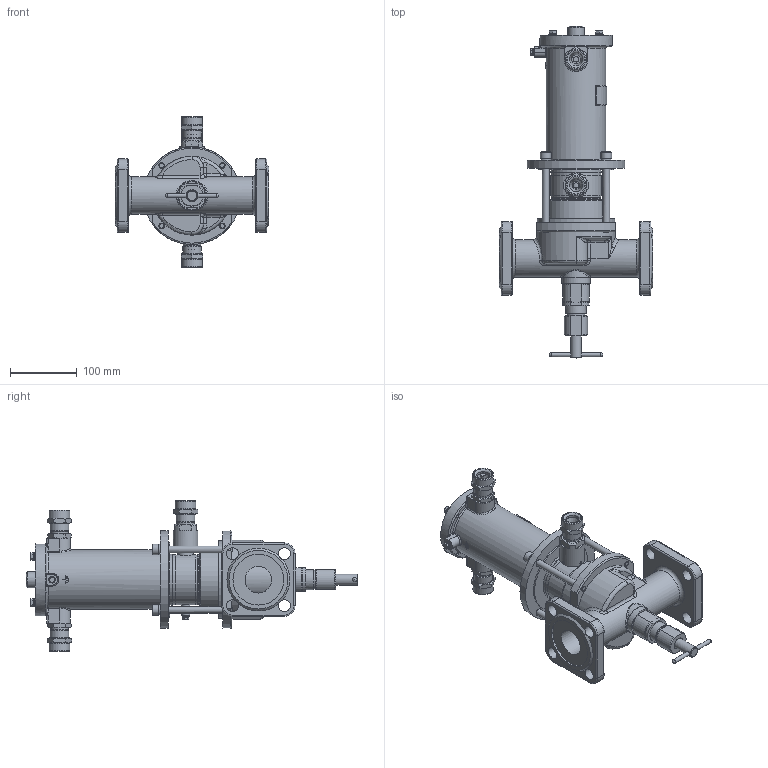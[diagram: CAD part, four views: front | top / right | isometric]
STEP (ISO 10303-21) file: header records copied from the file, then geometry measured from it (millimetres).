
FILE_DESCRIPTION(('STEP AP203'), '1');
FILE_NAME('ÑÅÍÑ-ÏÐ DN40PN25-ÄÏ1-ÑÂ.stp', '2018-10-09T08:06:32', ('Îðëîâ Å.Â.'), ('ÎÎÎ ÍÏÏ Ñåíñîð'), 'ASCON STEP Converter 1.3', 'Kompas 3D', '');
FILE_SCHEMA(('CONFIG_CONTROL_DESIGN','SUPPORT_RESOURCE_SCHEMA'));
Length unit declared in the file: millimetre
Products named in the file (1): 51
Bounding box: 230 x 496.66 x 225 mm (x, y, z)
Volume: 1876068.1 mm3; surface area: 494468.9 mm2
Topology: 2 solids, 26 shells, 2175 faces, 5663 edges, 3655 vertices
Faces by surface type: cylinder 1084, plane 809, cone 161, torus 54, bspline 47, extrusion 16, sphere 4
Full cylindrical faces by diameter (mm): 2.459 x1, 3.5 x2, 4.134 x6, 4.917 x4, 5 x2, 5.3 x1, 6 x10, 6.5 x4, 8 x10, 8.2 x1, 8.376 x4, 8.5 x1, 10 x6, 11 x5, 12 x6, 13 x4, 16 x6, 16.004 x2, 17 x1, 17.5 x1, 18 x9, 20 x6, 22 x2, 22.376 x2, 23 x2, 23.5 x3, 24 x4, 24.5 x2, 25 x2, 26 x6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
Entity records: 84456 total; most frequent: CARTESIAN_POINT 29924, DIRECTION 11825, ORIENTED_EDGE 11266, EDGE_CURVE 5633, AXIS2_PLACEMENT_3D 4572, VERTEX_POINT 3655, VECTOR 2681, LINE 2665
